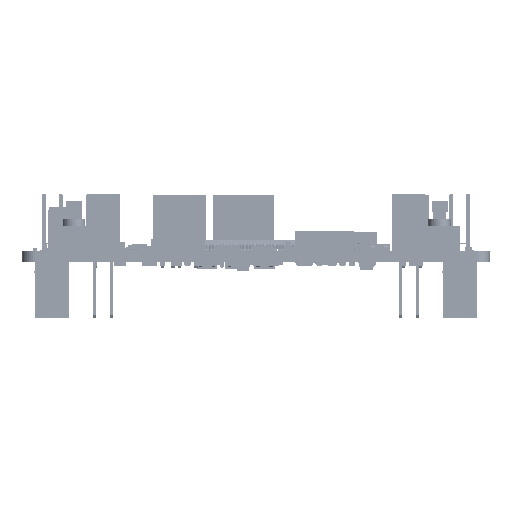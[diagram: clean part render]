
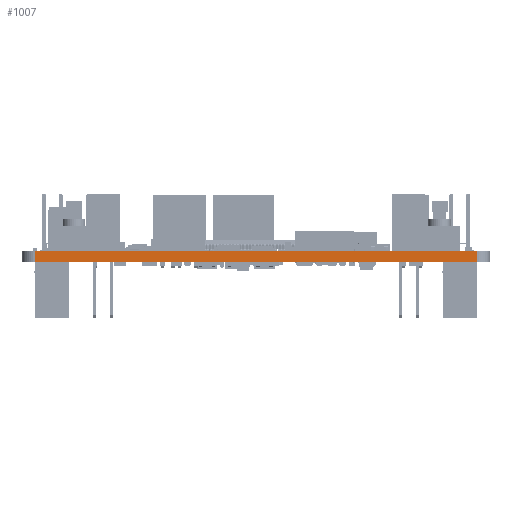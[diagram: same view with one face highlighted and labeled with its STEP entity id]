
A CAD part, front view. The second image highlights one B-rep face of the part: STEP entity #1007.
In plain terms, the highlighted planar face has unit normal (0, -1, 0).
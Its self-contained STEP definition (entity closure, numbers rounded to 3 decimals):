
#980 = VERTEX_POINT('',#981);
#981 = CARTESIAN_POINT('',(2.,0.001,1.6));
#988 = EDGE_CURVE('',#989,#980,#991,.T.);
#989 = VERTEX_POINT('',#990);
#990 = CARTESIAN_POINT('',(2.,0.001,0.));
#991 = LINE('',#992,#993);
#992 = CARTESIAN_POINT('',(2.,0.001,0.));
#993 = VECTOR('',#994,1.);
#994 = DIRECTION('',(0.,0.,1.));
#1007 = ADVANCED_FACE('',(#1008),#1033,.F.);
#1008 = FACE_BOUND('',#1009,.F.);
#1009 = EDGE_LOOP('',(#1010,#1011,#1019,#1027));
#1010 = ORIENTED_EDGE('',*,*,#988,.T.);
#1011 = ORIENTED_EDGE('',*,*,#1012,.T.);
#1012 = EDGE_CURVE('',#980,#1013,#1015,.T.);
#1013 = VERTEX_POINT('',#1014);
#1014 = CARTESIAN_POINT('',(68.,0.006,1.6));
#1015 = LINE('',#1016,#1017);
#1016 = CARTESIAN_POINT('',(2.,0.001,1.6));
#1017 = VECTOR('',#1018,1.);
#1018 = DIRECTION('',(1.,0.,0.));
#1019 = ORIENTED_EDGE('',*,*,#1020,.F.);
#1020 = EDGE_CURVE('',#1021,#1013,#1023,.T.);
#1021 = VERTEX_POINT('',#1022);
#1022 = CARTESIAN_POINT('',(68.,0.006,0.));
#1023 = LINE('',#1024,#1025);
#1024 = CARTESIAN_POINT('',(68.,0.006,0.));
#1025 = VECTOR('',#1026,1.);
#1026 = DIRECTION('',(0.,0.,1.));
#1027 = ORIENTED_EDGE('',*,*,#1028,.F.);
#1028 = EDGE_CURVE('',#989,#1021,#1029,.T.);
#1029 = LINE('',#1030,#1031);
#1030 = CARTESIAN_POINT('',(2.,0.001,0.));
#1031 = VECTOR('',#1032,1.);
#1032 = DIRECTION('',(1.,0.,0.));
#1033 = PLANE('',#1034);
#1034 = AXIS2_PLACEMENT_3D('',#1035,#1036,#1037);
#1035 = CARTESIAN_POINT('',(2.,0.001,0.));
#1036 = DIRECTION('',(0.,1.,0.));
#1037 = DIRECTION('',(1.,0.,0.));
